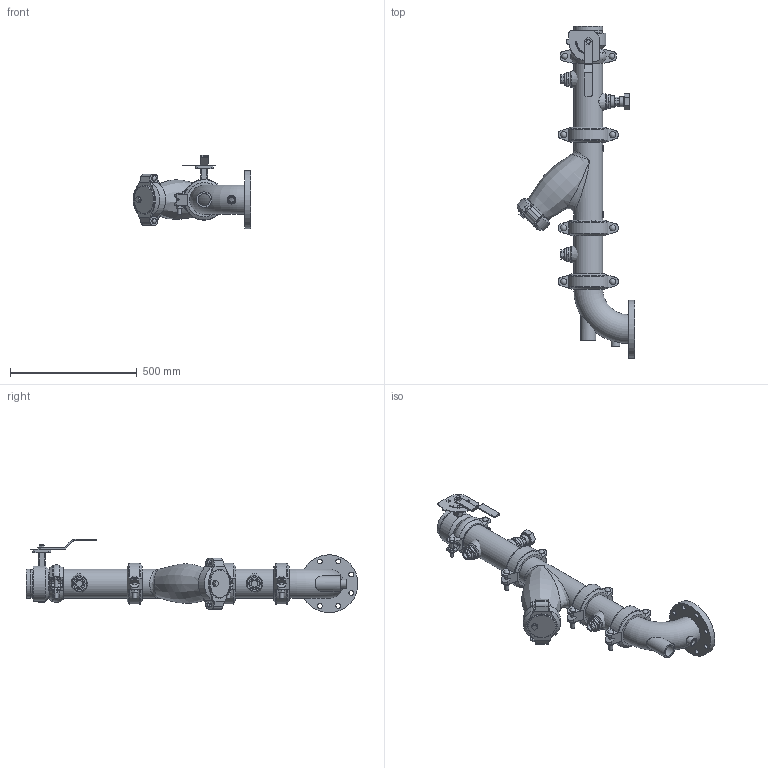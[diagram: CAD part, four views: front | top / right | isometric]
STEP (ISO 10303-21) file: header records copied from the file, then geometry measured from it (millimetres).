
FILE_DESCRIPTION(/* description */ ('VIC SVI PUMP DROP HORZ S/382 (OGSxFLG) (S/924-1.25)','CAx-IF Rec.Pracs.---Representation and Presentation of Product Manufacturing Information (PMI)---4.0---2014-10-13'),/* implementation_level */ '2;1');
FILE_NAME(/* name */ 'C:\Users\Vjadhav\AppData\Roaming\Autodesk\ApplicationPlugins\Victaulic.Temp\A115\Series 382 (OGSxFLG)_924 (1.25)_04.0x04.0 (100x100).stp',/* time_stamp */ '2022-03-17T12:18:47+06:00',/* author */ ('kkamble'),/* organization */ ('Victaulic'),/* preprocessor_version */ 'ST-DEVELOPER v17.2',/* originating_system */ 'Autodesk Inventor 2019',/* authorisation */ '');
FILE_SCHEMA (('AP242_MANAGED_MODEL_BASED_3D_ENGINEERING_MIM_LF { 1 0 10303 442 1 1 4 }'));
Length unit declared in the file: inch
Products named in the file (13): 382_924 (1.25)-04.0x04.0; PIPE-04.0; 107N-04.0; 732-04.0; 732-04.0_1; 07-04.0; 732-04.0_2; PIPE-04.3; 761-04.0; 924-04.0x01.25; 177N-04.0; 923-04.0x0.75; 100F-04.0
Assembly tree (15 placements, depth 3):
  382_924 (1.25)-04.0x04.0
    PIPE-04.0
    107N-04.0
    732-04.0
      732-04.0_1
      07-04.0
      732-04.0_2
    177N-04.0  x3
    PIPE-04.3
    761-04.0
    924-04.0x01.25
    923-04.0x0.75  x2
    100F-04.0
Bounding box: 464.88 x 1311.28 x 289.31 mm (x, y, z)
Volume: 8366984.8 mm3; surface area: 1845530.2 mm2
Topology: 14 solids, 18 shells, 878 faces, 2270 edges, 1515 vertices
Faces by surface type: plane 494, cylinder 294, torus 31, cone 27, bspline 22, sphere 10
Full cylindrical faces by diameter (mm): 4.826 x10, 8.636 x4, 12.7 x8, 14.986 x2, 15.875 x6, 19.05 x8, 20.93 x1, 21.336 x1, 22.225 x4, 22.86 x1, 23.495 x6, 25.4 x3, 26.67 x5, 34.29 x1, 38.608 x1, 42.164 x1, 45.974 x6, 48.26 x1, 48.514 x1, 55.118 x1, 55.626 x3, 60.96 x1, 95.25 x1, 98.831 x1, 99.06 x1, 101.6 x4, 102.26 x5, 107.95 x1, 110.084 x11, 114.3 x26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
Entity records: 24713 total; most frequent: CARTESIAN_POINT 7370, DIRECTION 3534, ORIENTED_EDGE 3280, EDGE_CURVE 1640, AXIS2_PLACEMENT_3D 1340, VERTEX_POINT 1101, LINE 854, VECTOR 854
